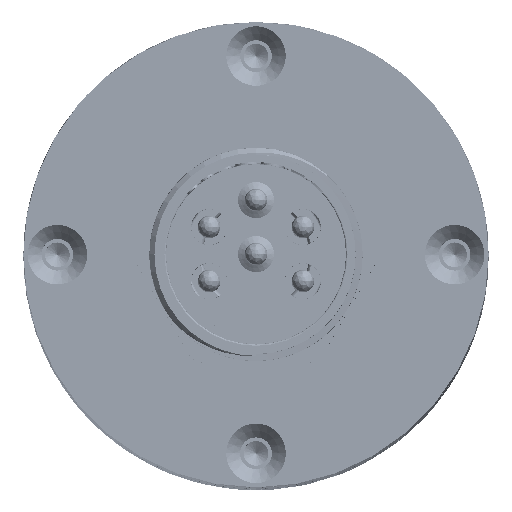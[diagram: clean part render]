
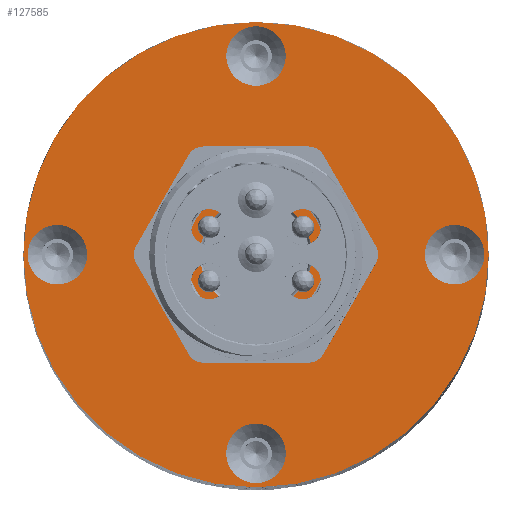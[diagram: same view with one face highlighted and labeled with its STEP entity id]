
A CAD part, top view. The second image highlights one B-rep face of the part: STEP entity #127585.
In plain terms, the highlighted planar face has unit normal (0, 0, 1) as drawn and (0, 1, 0) by its records, which use the part's own axes.
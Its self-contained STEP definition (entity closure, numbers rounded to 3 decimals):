
#2855=FACE_BOUND('',#22489,.T.);
#2856=FACE_BOUND('',#22490,.T.);
#2857=FACE_BOUND('',#22491,.T.);
#2858=FACE_BOUND('',#22492,.T.);
#2859=FACE_BOUND('',#22493,.T.);
#7809=PLANE('',#137430);
#15334=FACE_OUTER_BOUND('',#22488,.T.);
#22488=EDGE_LOOP('',(#116759));
#22489=EDGE_LOOP('',(#116760));
#22490=EDGE_LOOP('',(#116761));
#22491=EDGE_LOOP('',(#116762));
#22492=EDGE_LOOP('',(#116763));
#22493=EDGE_LOOP('',(#116764));
#53473=CIRCLE('',#137431,20.5);
#53474=CIRCLE('',#137432,4.94);
#53475=CIRCLE('',#137433,2.625);
#53476=CIRCLE('',#137434,2.625);
#53477=CIRCLE('',#137435,2.625);
#53478=CIRCLE('',#137436,2.625);
#64499=VERTEX_POINT('',#221681);
#64500=VERTEX_POINT('',#221683);
#64501=VERTEX_POINT('',#221685);
#64502=VERTEX_POINT('',#221687);
#64503=VERTEX_POINT('',#221689);
#64504=VERTEX_POINT('',#221691);
#82142=EDGE_CURVE('',#64499,#64499,#53473,.T.);
#82143=EDGE_CURVE('',#64500,#64500,#53474,.T.);
#82144=EDGE_CURVE('',#64501,#64501,#53475,.T.);
#82145=EDGE_CURVE('',#64502,#64502,#53476,.T.);
#82146=EDGE_CURVE('',#64503,#64503,#53477,.T.);
#82147=EDGE_CURVE('',#64504,#64504,#53478,.T.);
#116759=ORIENTED_EDGE('',*,*,#82142,.F.);
#116760=ORIENTED_EDGE('',*,*,#82143,.F.);
#116761=ORIENTED_EDGE('',*,*,#82144,.T.);
#116762=ORIENTED_EDGE('',*,*,#82145,.T.);
#116763=ORIENTED_EDGE('',*,*,#82146,.T.);
#116764=ORIENTED_EDGE('',*,*,#82147,.T.);
#127585=ADVANCED_FACE('',(#15334,#2855,#2856,#2857,#2858,#2859),#7809,.T.);
#137430=AXIS2_PLACEMENT_3D('',#221680,#168253,#168254);
#137431=AXIS2_PLACEMENT_3D('',#221682,#168255,#168256);
#137432=AXIS2_PLACEMENT_3D('',#221684,#168257,#168258);
#137433=AXIS2_PLACEMENT_3D('',#221686,#168259,#168260);
#137434=AXIS2_PLACEMENT_3D('',#221688,#168261,#168262);
#137435=AXIS2_PLACEMENT_3D('',#221690,#168263,#168264);
#137436=AXIS2_PLACEMENT_3D('',#221692,#168265,#168266);
#168253=DIRECTION('center_axis',(0.,1.,0.));
#168254=DIRECTION('ref_axis',(0.,0.,
1.));
#168255=DIRECTION('center_axis',(0.,-1.,0.));
#168256=DIRECTION('ref_axis',(1.,0.,0.));
#168257=DIRECTION('center_axis',(0.,1.,0.));
#168258=DIRECTION('ref_axis',(0.,0.,
1.));
#168259=DIRECTION('center_axis',(0.,-1.,0.));
#168260=DIRECTION('ref_axis',(0.,0.,
1.));
#168261=DIRECTION('center_axis',(0.,-1.,0.));
#168262=DIRECTION('ref_axis',(0.,0.,
1.));
#168263=DIRECTION('center_axis',(0.,-1.,0.));
#168264=DIRECTION('ref_axis',(0.,0.,
1.));
#168265=DIRECTION('center_axis',(0.,-1.,0.));
#168266=DIRECTION('ref_axis',(0.,0.,
1.));
#221680=CARTESIAN_POINT('Origin',(20.5,28.75,0.));
#221681=CARTESIAN_POINT('',(-20.5,28.75,0.));
#221682=CARTESIAN_POINT('Origin',(0.,28.75,0.));
#221683=CARTESIAN_POINT('',(0.,28.75,-4.94));
#221684=CARTESIAN_POINT('Origin',(0.,28.75,0.));
#221685=CARTESIAN_POINT('',(0.,28.75,14.875));
#221686=CARTESIAN_POINT('Origin',(0.,28.75,17.5));
#221687=CARTESIAN_POINT('',(0.,28.75,-20.125));
#221688=CARTESIAN_POINT('Origin',(0.,28.75,-17.5));
#221689=CARTESIAN_POINT('',(-17.5,28.75,-2.625));
#221690=CARTESIAN_POINT('Origin',(-17.5,28.75,0.));
#221691=CARTESIAN_POINT('',(17.5,28.75,-2.625));
#221692=CARTESIAN_POINT('Origin',(17.5,28.75,0.));
